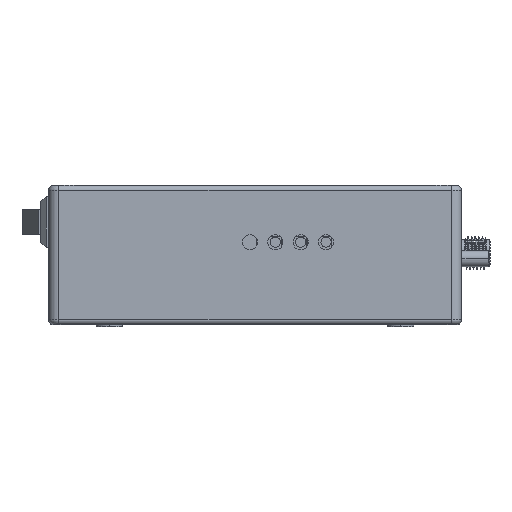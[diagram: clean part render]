
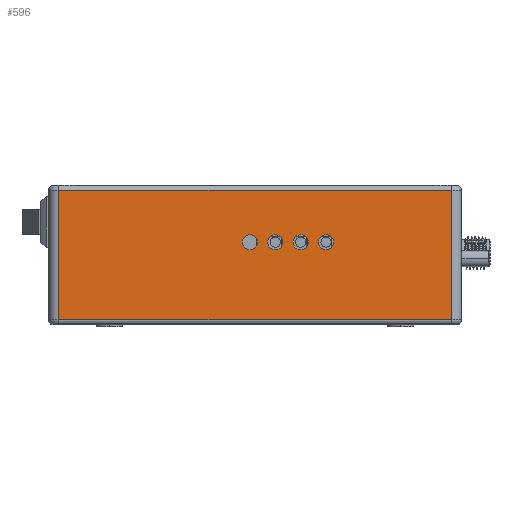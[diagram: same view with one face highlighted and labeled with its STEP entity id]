
A CAD part, left-side view. The second image highlights one B-rep face of the part: STEP entity #596.
In plain terms, the highlighted planar face has unit normal (-1, 0, 0).
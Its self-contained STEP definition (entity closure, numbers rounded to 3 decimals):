
#58 = CARTESIAN_POINT ( 'NONE',  ( -23.842, 37.771, 92.781 ) ) ;
#242 = AXIS2_PLACEMENT_3D ( 'NONE', #14093, #18782, #7615 ) ;
#333 = DIRECTION ( 'NONE',  ( -1., 0., 0. ) ) ;
#385 = VECTOR ( 'NONE', #15037, 1000. ) ;
#411 = VERTEX_POINT ( 'NONE', #11786 ) ;
#445 = EDGE_CURVE ( 'NONE', #13694, #411, #7356, .T. ) ;
#563 = VERTEX_POINT ( 'NONE', #2382 ) ;
#596 = ADVANCED_FACE ( 'NONE', ( #17090, #5547, #14143, #4275, #20368 ), #7264, .F. ) ;
#702 = EDGE_CURVE ( 'NONE', #13960, #11875, #2004, .T. ) ;
#749 = LINE ( 'NONE', #12492, #17338 ) ;
#1052 = DIRECTION ( 'NONE',  ( 1., 0., 0. ) ) ;
#1733 = EDGE_LOOP ( 'NONE', ( #11413, #7195 ) ) ;
#1980 = EDGE_CURVE ( 'NONE', #563, #8753, #15380, .T. ) ;
#2004 = CIRCLE ( 'NONE', #11202, 1.5 ) ;
#2313 = DIRECTION ( 'NONE',  ( -1., 0., 0. ) ) ;
#2332 = CARTESIAN_POINT ( 'NONE',  ( -23.842, 32.771, 92.781 ) ) ;
#2382 = CARTESIAN_POINT ( 'NONE',  ( -23.842, 3.021, 77.481 ) ) ;
#2652 = ORIENTED_EDGE ( 'NONE', *, *, #20344, .F. ) ;
#2787 = AXIS2_PLACEMENT_3D ( 'NONE', #16787, #7201, #18377 ) ;
#2994 = CARTESIAN_POINT ( 'NONE',  ( -23.842, 80.521, 77.481 ) ) ;
#3041 = VERTEX_POINT ( 'NONE', #9806 ) ;
#3146 = ORIENTED_EDGE ( 'NONE', *, *, #4343, .F. ) ;
#3165 = CIRCLE ( 'NONE', #12522, 1.5 ) ;
#3663 = EDGE_CURVE ( 'NONE', #8753, #5007, #749, .T. ) ;
#3856 = AXIS2_PLACEMENT_3D ( 'NONE', #58, #333, #17789 ) ;
#4275 = FACE_BOUND ( 'NONE', #1733, .T. ) ;
#4343 = EDGE_CURVE ( 'NONE', #17687, #4873, #16819, .T. ) ;
#4363 = CARTESIAN_POINT ( 'NONE',  ( -23.842, 37.771, 92.781 ) ) ;
#4529 = ORIENTED_EDGE ( 'NONE', *, *, #3663, .T. ) ;
#4873 = VERTEX_POINT ( 'NONE', #14325 ) ;
#5007 = VERTEX_POINT ( 'NONE', #12947 ) ;
#5348 = VERTEX_POINT ( 'NONE', #14930 ) ;
#5547 = FACE_BOUND ( 'NONE', #6091, .T. ) ;
#5753 = AXIS2_PLACEMENT_3D ( 'NONE', #8905, #1052, #10519 ) ;
#5988 = DIRECTION ( 'NONE',  ( -1., 0., 0. ) ) ;
#5997 = DIRECTION ( 'NONE',  ( -1., 0., 0. ) ) ;
#6091 = EDGE_LOOP ( 'NONE', ( #19458, #2652 ) ) ;
#6561 = DIRECTION ( 'NONE',  ( 0., 0., 1. ) ) ;
#6797 = EDGE_LOOP ( 'NONE', ( #13638, #16935 ) ) ;
#6853 = VECTOR ( 'NONE', #6561, 1000. ) ;
#7001 = VECTOR ( 'NONE', #20559, 1000. ) ;
#7195 = ORIENTED_EDGE ( 'NONE', *, *, #445, .F. ) ;
#7201 = DIRECTION ( 'NONE',  ( -1., 0., 0. ) ) ;
#7264 = PLANE ( 'NONE',  #5753 ) ;
#7356 = CIRCLE ( 'NONE', #2787, 1.5 ) ;
#7615 = DIRECTION ( 'NONE',  ( 0., -1., 0. ) ) ;
#7988 = CARTESIAN_POINT ( 'NONE',  ( -23.842, 3.021, 103.981 ) ) ;
#8517 = CARTESIAN_POINT ( 'NONE',  ( -23.842, 80.521, 103.981 ) ) ;
#8753 = VERTEX_POINT ( 'NONE', #16504 ) ;
#8905 = CARTESIAN_POINT ( 'NONE',  ( -23.842, 1.021, 103.981 ) ) ;
#9145 = ORIENTED_EDGE ( 'NONE', *, *, #19475, .T. ) ;
#9359 = CARTESIAN_POINT ( 'NONE',  ( -23.842, 3.021, 77.481 ) ) ;
#9507 = AXIS2_PLACEMENT_3D ( 'NONE', #2332, #18478, #15211 ) ;
#9806 = CARTESIAN_POINT ( 'NONE',  ( -23.842, 44.271, 92.781 ) ) ;
#9874 = EDGE_CURVE ( 'NONE', #4873, #17687, #3165, .T. ) ;
#10301 = DIRECTION ( 'NONE',  ( 0., -1., 0. ) ) ;
#10519 = DIRECTION ( 'NONE',  ( 0., 1., 0. ) ) ;
#10663 = DIRECTION ( 'NONE',  ( 0., -1., 0. ) ) ;
#10960 = DIRECTION ( 'NONE',  ( 0., -1., 0. ) ) ;
#11202 = AXIS2_PLACEMENT_3D ( 'NONE', #4363, #5988, #20450 ) ;
#11413 = ORIENTED_EDGE ( 'NONE', *, *, #14715, .F. ) ;
#11645 = EDGE_LOOP ( 'NONE', ( #3146, #13317 ) ) ;
#11786 = CARTESIAN_POINT ( 'NONE',  ( -23.842, 26.271, 92.781 ) ) ;
#11798 = LINE ( 'NONE', #9359, #7001 ) ;
#11875 = VERTEX_POINT ( 'NONE', #16248 ) ;
#12228 = EDGE_CURVE ( 'NONE', #5348, #3041, #17880, .T. ) ;
#12492 = CARTESIAN_POINT ( 'NONE',  ( -23.842, 1.021, 102.981 ) ) ;
#12522 = AXIS2_PLACEMENT_3D ( 'NONE', #18527, #2313, #10663 ) ;
#12633 = CARTESIAN_POINT ( 'NONE',  ( -23.842, 36.271, 92.781 ) ) ;
#12947 = CARTESIAN_POINT ( 'NONE',  ( -23.842, 80.521, 102.981 ) ) ;
#13028 = AXIS2_PLACEMENT_3D ( 'NONE', #13976, #5997, #10960 ) ;
#13317 = ORIENTED_EDGE ( 'NONE', *, *, #9874, .F. ) ;
#13337 = ORIENTED_EDGE ( 'NONE', *, *, #20592, .T. ) ;
#13536 = CARTESIAN_POINT ( 'NONE',  ( -23.842, 27.771, 92.781 ) ) ;
#13596 = AXIS2_PLACEMENT_3D ( 'NONE', #13536, #16661, #10301 ) ;
#13638 = ORIENTED_EDGE ( 'NONE', *, *, #12228, .F. ) ;
#13694 = VERTEX_POINT ( 'NONE', #20341 ) ;
#13960 = VERTEX_POINT ( 'NONE', #12633 ) ;
#13976 = CARTESIAN_POINT ( 'NONE',  ( -23.842, 42.771, 92.781 ) ) ;
#14042 = VERTEX_POINT ( 'NONE', #2994 ) ;
#14093 = CARTESIAN_POINT ( 'NONE',  ( -23.842, 42.771, 92.781 ) ) ;
#14143 = FACE_BOUND ( 'NONE', #6797, .T. ) ;
#14271 = CIRCLE ( 'NONE', #3856, 1.5 ) ;
#14325 = CARTESIAN_POINT ( 'NONE',  ( -23.842, 34.271, 92.781 ) ) ;
#14715 = EDGE_CURVE ( 'NONE', #411, #13694, #17530, .T. ) ;
#14930 = CARTESIAN_POINT ( 'NONE',  ( -23.842, 41.271, 92.781 ) ) ;
#15037 = DIRECTION ( 'NONE',  ( 0., 0., -1. ) ) ;
#15131 = EDGE_LOOP ( 'NONE', ( #13337, #9145, #16434, #4529 ) ) ;
#15211 = DIRECTION ( 'NONE',  ( 0., -1., 0. ) ) ;
#15380 = LINE ( 'NONE', #7988, #6853 ) ;
#15483 = LINE ( 'NONE', #8517, #385 ) ;
#15496 = CARTESIAN_POINT ( 'NONE',  ( -23.842, 31.271, 92.781 ) ) ;
#16248 = CARTESIAN_POINT ( 'NONE',  ( -23.842, 39.271, 92.781 ) ) ;
#16434 = ORIENTED_EDGE ( 'NONE', *, *, #1980, .T. ) ;
#16504 = CARTESIAN_POINT ( 'NONE',  ( -23.842, 3.021, 102.981 ) ) ;
#16661 = DIRECTION ( 'NONE',  ( -1., 0., 0. ) ) ;
#16787 = CARTESIAN_POINT ( 'NONE',  ( -23.842, 27.771, 92.781 ) ) ;
#16819 = CIRCLE ( 'NONE', #9507, 1.5 ) ;
#16935 = ORIENTED_EDGE ( 'NONE', *, *, #18409, .F. ) ;
#17090 = FACE_BOUND ( 'NONE', #11645, .T. ) ;
#17338 = VECTOR ( 'NONE', #18668, 1000. ) ;
#17530 = CIRCLE ( 'NONE', #13596, 1.5 ) ;
#17560 = CIRCLE ( 'NONE', #13028, 1.5 ) ;
#17687 = VERTEX_POINT ( 'NONE', #15496 ) ;
#17789 = DIRECTION ( 'NONE',  ( 0., -1., 0. ) ) ;
#17880 = CIRCLE ( 'NONE', #242, 1.5 ) ;
#18377 = DIRECTION ( 'NONE',  ( 0., -1., 0. ) ) ;
#18409 = EDGE_CURVE ( 'NONE', #3041, #5348, #17560, .T. ) ;
#18478 = DIRECTION ( 'NONE',  ( -1., 0., 0. ) ) ;
#18527 = CARTESIAN_POINT ( 'NONE',  ( -23.842, 32.771, 92.781 ) ) ;
#18668 = DIRECTION ( 'NONE',  ( 0., 1., 0. ) ) ;
#18782 = DIRECTION ( 'NONE',  ( -1., 0., 0. ) ) ;
#19458 = ORIENTED_EDGE ( 'NONE', *, *, #702, .F. ) ;
#19475 = EDGE_CURVE ( 'NONE', #14042, #563, #11798, .T. ) ;
#20341 = CARTESIAN_POINT ( 'NONE',  ( -23.842, 29.271, 92.781 ) ) ;
#20344 = EDGE_CURVE ( 'NONE', #11875, #13960, #14271, .T. ) ;
#20368 = FACE_OUTER_BOUND ( 'NONE', #15131, .T. ) ;
#20450 = DIRECTION ( 'NONE',  ( 0., -1., 0. ) ) ;
#20559 = DIRECTION ( 'NONE',  ( 0., -1., 0. ) ) ;
#20592 = EDGE_CURVE ( 'NONE', #5007, #14042, #15483, .T. ) ;
